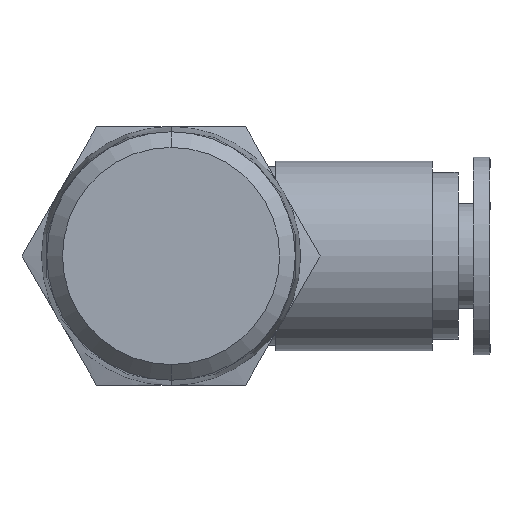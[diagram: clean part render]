
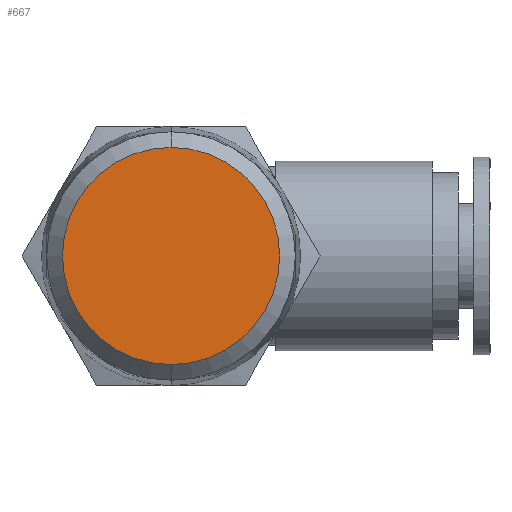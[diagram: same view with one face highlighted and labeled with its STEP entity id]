
A CAD part, front view. The second image highlights one B-rep face of the part: STEP entity #667.
In plain terms, the highlighted planar face has unit normal (0, -1, 0).
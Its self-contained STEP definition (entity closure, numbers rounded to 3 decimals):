
#4 = DIRECTION ( 'NONE',  ( 0., -1., 0. ) ) ;
#21 = EDGE_CURVE ( 'NONE', #417, #981, #1388, .T. ) ;
#114 = FACE_OUTER_BOUND ( 'NONE', #1209, .T. ) ;
#116 = DIRECTION ( 'NONE',  ( 0., -1., 0. ) ) ;
#155 = DIRECTION ( 'NONE',  ( 0., 0., -1. ) ) ;
#270 = AXIS2_PLACEMENT_3D ( 'NONE', #1610, #116, #309 ) ;
#283 = DIRECTION ( 'NONE',  ( 0., -1., 0. ) ) ;
#309 = DIRECTION ( 'NONE',  ( 0., 0., -1. ) ) ;
#400 = EDGE_CURVE ( 'NONE', #981, #417, #1414, .T. ) ;
#417 = VERTEX_POINT ( 'NONE', #1222 ) ;
#486 = AXIS2_PLACEMENT_3D ( 'NONE', #937, #4, #818 ) ;
#667 = ADVANCED_FACE ( 'NONE', ( #114 ), #993, .T. ) ;
#818 = DIRECTION ( 'NONE',  ( 0., 0., -1. ) ) ;
#895 = CARTESIAN_POINT ( 'NONE',  ( 0., -6.4, -7.15 ) ) ;
#937 = CARTESIAN_POINT ( 'NONE',  ( 0., -6.4, 0. ) ) ;
#964 = ORIENTED_EDGE ( 'NONE', *, *, #21, .T. ) ;
#978 = AXIS2_PLACEMENT_3D ( 'NONE', #1455, #283, #155 ) ;
#981 = VERTEX_POINT ( 'NONE', #895 ) ;
#993 = PLANE ( 'NONE',  #270 ) ;
#1209 = EDGE_LOOP ( 'NONE', ( #964, #1331 ) ) ;
#1222 = CARTESIAN_POINT ( 'NONE',  ( 0., -6.4, 7.15 ) ) ;
#1331 = ORIENTED_EDGE ( 'NONE', *, *, #400, .T. ) ;
#1388 = CIRCLE ( 'NONE', #486, 7.15 ) ;
#1414 = CIRCLE ( 'NONE', #978, 7.15 ) ;
#1455 = CARTESIAN_POINT ( 'NONE',  ( 0., -6.4, 0. ) ) ;
#1610 = CARTESIAN_POINT ( 'NONE',  ( 0., -6.4, 0. ) ) ;
